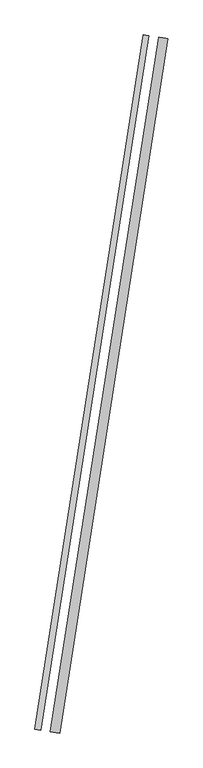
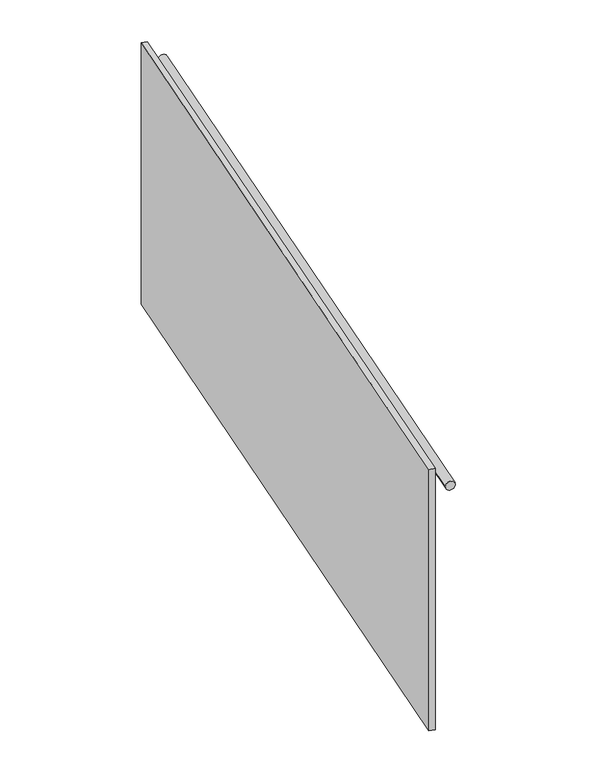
"""IFC4 building model written with IfcOpenShell, lengths in millimetres: railing geometry, Panel de vidrio - balcón."""

from ifc_helpers import new_model, si_unit, point, frame, origin, origin_2d, place, context, project, spatial, polyline, circle_curve, trimmed, segment, composite_curve, outline, extrude, source, transform, mapped, element, save


def railing_8bba7e83(model_context):
    return source(origin(), model_context, "Body", "SweptSolid", [
        extrude(outline(polyline([(-48617.983918, -53565.5637829), (-48642.6856507, -53561.7135359), (-48180.6560181, -50597.5056353), (-48155.9542854, -50601.3558823), (-48617.983918, -53565.5637829)])), frame((0.0, 0.0, 2945.385397), z_axis=(0.0, 0.0, 1.0), x_axis=(1.0, 0.0, 0.0)), (0.0, 0.0, 1.0), 1200.0),
        extrude(outline(composite_curve([segment(trimmed(circle_curve(origin_2d(), 20.0), [point((20.0, 0.0))], [point((-20.0, 0.0))], False, "CARTESIAN"), True, "CONTINUOUS"), segment(trimmed(circle_curve(origin_2d(), 20.0), [point((-20.0, 0.0))], [point((20.0, 0.0))], False, "CARTESIAN"), True, "CONTINUOUS")], self_intersect=False)), frame((-48556.8161, -53575.0979807, 4050.0), z_axis=(0.1540098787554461, 0.9880693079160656, 0.0), x_axis=(0.9880693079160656, -0.1540098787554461, 0.0)), (0.0, 0.0, 1.0), 2999.9999766),
    ])


if __name__ == "__main__":
    model = new_model("IFC4")
    model_context = context("Model", 3, world=origin())
    ifc_project = project(units=[si_unit("LENGTHUNIT", "METRE", prefix="MILLI")], contexts=[model_context])
    site = spatial("IfcSite", under=ifc_project)
    building = spatial("IfcBuilding", under=site)
    placement = place(None, origin())
    railing_shape = railing_8bba7e83(model_context)
    element("IfcRailing", 1, ObjectType="Panel de vidrio - balcón", at=placement, inside=building, context=model_context, shape_type="MappedRepresentation", body=[
        mapped(railing_shape, transform((0.0, 0.0, 0.0), x_axis=(1.0, 0.0, 0.0), y_axis=(0.0, 1.0, 0.0), z_axis=(0.0, 0.0, 1.0))),
    ])
    save(model, "model.ifc")
